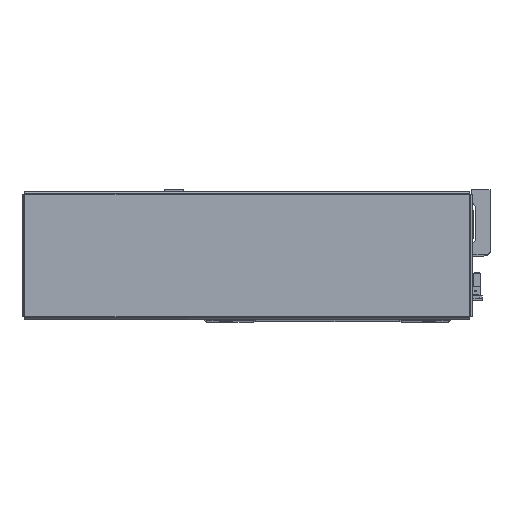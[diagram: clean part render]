
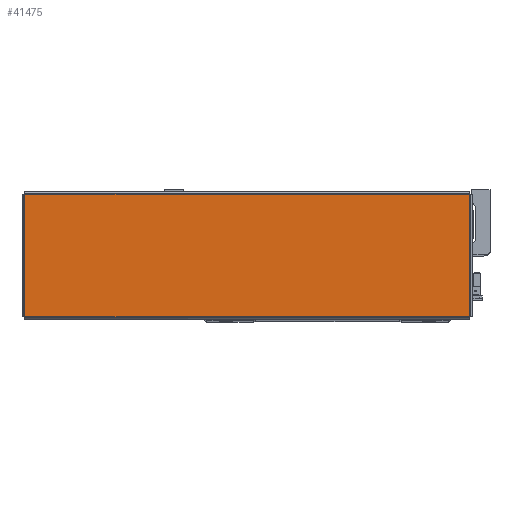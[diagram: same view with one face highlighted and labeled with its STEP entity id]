
A CAD part, top view. The second image highlights one B-rep face of the part: STEP entity #41475.
In plain terms, the highlighted planar face has unit normal (0, 0, 1) as drawn and (0, -1, 0) by its records, which use the part's own axes.
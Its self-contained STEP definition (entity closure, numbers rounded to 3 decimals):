
#1146 = VECTOR ( 'NONE', #47091, 1000. ) ;
#1247 = LINE ( 'NONE', #47103, #1146 ) ;
#1783 = EDGE_CURVE ( 'NONE', #32511, #32456, #1247, .T. ) ;
#1801 = EDGE_CURVE ( 'NONE', #32510, #32511, #2237, .T. ) ;
#1809 = EDGE_CURVE ( 'NONE', #32456, #32501, #3181, .T. ) ;
#1921 = EDGE_CURVE ( 'NONE', #32501, #32510, #14126, .T. ) ;
#2237 = LINE ( 'NONE', #47078, #2256 ) ;
#2256 = VECTOR ( 'NONE', #47101, 1000. ) ;
#3117 = VECTOR ( 'NONE', #47086, 1000. ) ;
#3181 = LINE ( 'NONE', #47084, #3117 ) ;
#5765 = AXIS2_PLACEMENT_3D ( 'NONE', #13662, #13681, #13680 ) ;
#13662 = CARTESIAN_POINT ( 'NONE',  ( 0., -1.2, 0. ) ) ;
#13672 = PLANE ( 'NONE',  #5765 ) ;
#13680 = DIRECTION ( 'NONE',  ( 0., 0., 1. ) ) ;
#13681 = DIRECTION ( 'NONE',  ( 0., 1., 0. ) ) ;
#14126 = LINE ( 'NONE', #47255, #14147 ) ;
#14147 = VECTOR ( 'NONE', #47257, 1000. ) ;
#16682 = ORIENTED_EDGE ( 'NONE', *, *, #1809, .T. ) ;
#16718 = ORIENTED_EDGE ( 'NONE', *, *, #1783, .T. ) ;
#16744 = ORIENTED_EDGE ( 'NONE', *, *, #1801, .T. ) ;
#16775 = ORIENTED_EDGE ( 'NONE', *, *, #1921, .T. ) ;
#18571 = FACE_OUTER_BOUND ( 'NONE', #38083, .T. ) ;
#27376 = CARTESIAN_POINT ( 'NONE',  ( -154.013, -1.2, 42.263 ) ) ;
#27485 = CARTESIAN_POINT ( 'NONE',  ( 154.013, -1.2, 42.263 ) ) ;
#27519 = CARTESIAN_POINT ( 'NONE',  ( -154.013, -1.2, -42.263 ) ) ;
#27520 = CARTESIAN_POINT ( 'NONE',  ( 154.013, -1.2, -42.263 ) ) ;
#32456 = VERTEX_POINT ( 'NONE', #27376 ) ;
#32501 = VERTEX_POINT ( 'NONE', #27519 ) ;
#32510 = VERTEX_POINT ( 'NONE', #27520 ) ;
#32511 = VERTEX_POINT ( 'NONE', #27485 ) ;
#38083 = EDGE_LOOP ( 'NONE', ( #16744, #16718, #16682, #16775 ) ) ;
#41475 = ADVANCED_FACE ( 'NONE', ( #18571 ), #13672, .F. ) ;
#47078 = CARTESIAN_POINT ( 'NONE',  ( 154.013, -1.2, -42.293 ) ) ;
#47084 = CARTESIAN_POINT ( 'NONE',  ( -154.013, -1.2, 42.293 ) ) ;
#47086 = DIRECTION ( 'NONE',  ( 0., 0., -1. ) ) ;
#47091 = DIRECTION ( 'NONE',  ( -1., 0., 0. ) ) ;
#47101 = DIRECTION ( 'NONE',  ( 0., 0., 1. ) ) ;
#47103 = CARTESIAN_POINT ( 'NONE',  ( 154.043, -1.2, 42.263 ) ) ;
#47255 = CARTESIAN_POINT ( 'NONE',  ( -154.043, -1.2, -42.263 ) ) ;
#47257 = DIRECTION ( 'NONE',  ( 1., 0., 0. ) ) ;
